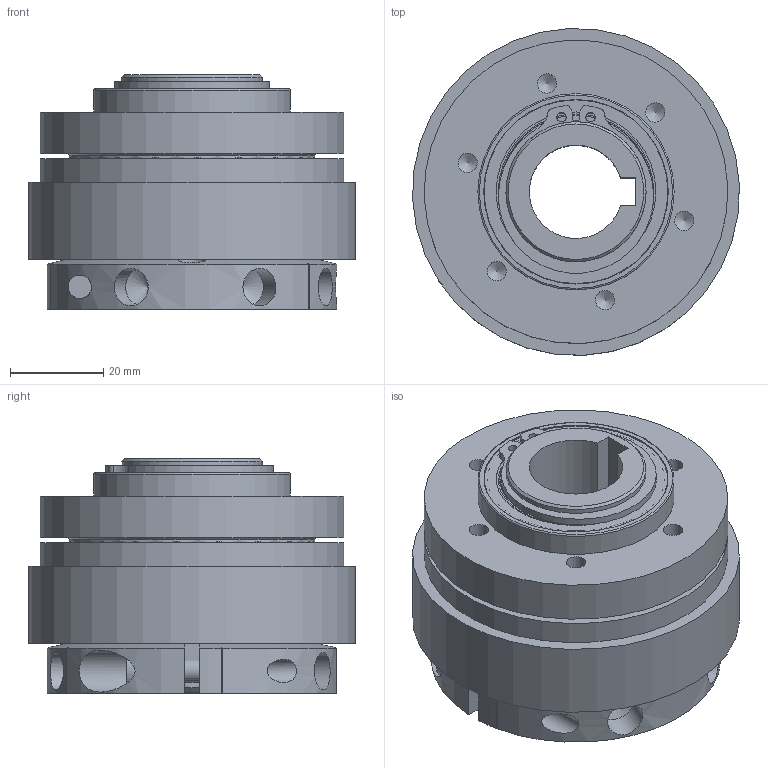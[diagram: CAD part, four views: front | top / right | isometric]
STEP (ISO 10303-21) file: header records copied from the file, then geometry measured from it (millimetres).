
FILE_DESCRIPTION( ( 'Unknown' ), '1' );
FILE_NAME( 'R:/UTP/progettazione/3 D/SPECIALI - FINITI/DSS-SG-RF/COMPLESSIVI/DSS-SG-RF KEYWAY/0-63 DSS-SG-RF 6C 20-A1.stp', 'Unknown', ( 'Unknown' ), ( 'Unknown' ), 'PSStep 10.1', 'Unknown', ' ' );
FILE_SCHEMA( ( 'AUTOMOTIVE_DESIGN { 1 0 10303 214 1 1 1 1 }' ) );
Length unit declared in the file: millimetre
Products named in the file (1): 1
Bounding box: 69.93 x 69.93 x 50.21 mm (x, y, z)
Volume: 116328.6 mm3; surface area: 54660.9 mm2
Topology: 1 solids, 3 shells, 275 faces, 827 edges, 544 vertices
Faces by surface type: plane 117, cylinder 96, cone 31, torus 31
Full cylindrical faces by diameter (mm): 2 x2, 4.134 x6, 5 x2, 6 x2, 8 x6, 8.5 x1, 9 x1, 28.6 x1, 30 x3, 30.1 x1, 33.236 x2, 34.175 x2, 35 x1, 38.013 x2, 39 x1, 39.325 x2, 39.5 x4, 39.527 x2, 40 x3, 41 x1, 42 x3, 43 x1, 45 x1, 48 x2, 50 x1, 52.5 x1, 53.3 x1, 54.522 x1, 61.8 x1, 63 x1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
Entity records: 13000 total; most frequent: CARTESIAN_POINT 3270, DIRECTION 1320, ORIENTED_EDGE 1206, EDGE_CURVE 603, AXIS2_PLACEMENT_3D 580, PRESENTATION_STYLE_ASSIGNMENT 551, COLOUR_RGB 551, VERTEX_POINT 459
